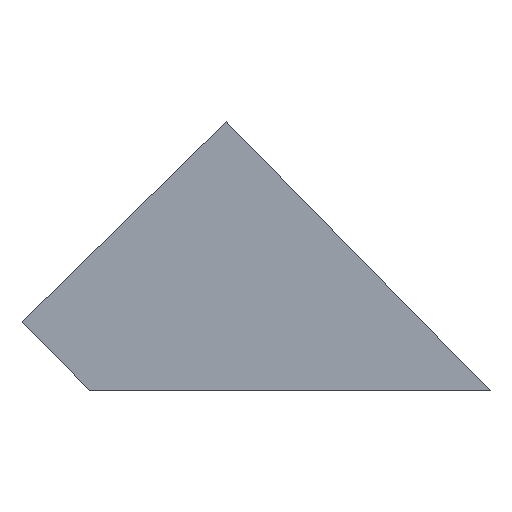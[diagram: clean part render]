
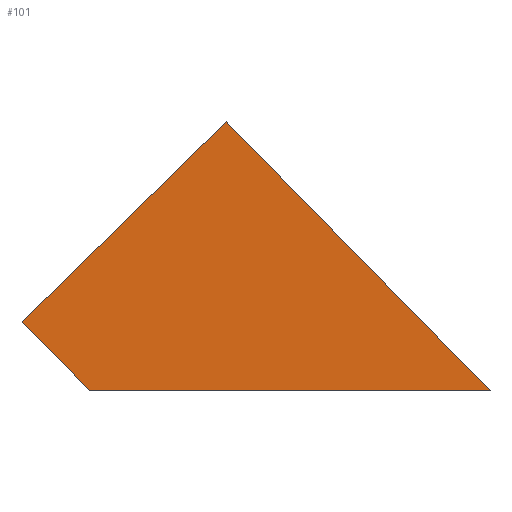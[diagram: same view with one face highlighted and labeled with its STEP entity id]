
A CAD part, left-side view. The second image highlights one B-rep face of the part: STEP entity #101.
In plain terms, the highlighted planar face has unit normal (-1, 0, 0).
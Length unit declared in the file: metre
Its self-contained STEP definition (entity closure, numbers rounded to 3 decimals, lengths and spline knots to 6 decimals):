
#24=ORIENTED_EDGE('',*,*,#37,.F.);
#25=ORIENTED_EDGE('',*,*,#45,.T.);
#26=ORIENTED_EDGE('',*,*,#46,.F.);
#27=ORIENTED_EDGE('',*,*,#41,.F.);
#37=EDGE_CURVE('',#48,#50,#57,.T.);
#41=EDGE_CURVE('',#50,#53,#61,.T.);
#45=EDGE_CURVE('',#48,#55,#65,.T.);
#46=EDGE_CURVE('',#53,#55,#66,.T.);
#48=VERTEX_POINT('',#152);
#50=VERTEX_POINT('',#155);
#53=VERTEX_POINT('',#163);
#55=VERTEX_POINT('',#171);
#57=LINE('',#154,#69);
#61=LINE('',#162,#73);
#65=LINE('',#170,#77);
#66=LINE('',#172,#78);
#69=VECTOR('',#128,1.);
#73=VECTOR('',#134,1.);
#77=VECTOR('',#142,1.);
#78=VECTOR('',#143,1.);
#83=EDGE_LOOP('',(#24,#25,#26,#27));
#89=FACE_BOUND('',#83,.T.);
#95=PLANE('',#120);
#101=ADVANCED_FACE('',(#89),#95,.T.);
#120=AXIS2_PLACEMENT_3D('',#169,#140,#141);
#128=DIRECTION('',(0.,1.,0.));
#134=DIRECTION('',(0.,0.7,0.714));
#140=DIRECTION('',(-1.,0.,0.));
#141=DIRECTION('',(0.,-1.,0.));
#142=DIRECTION('',(0.,0.7,0.714));
#143=DIRECTION('',(0.,-0.714,0.7));
#152=CARTESIAN_POINT('',(-0.0325,-0.027049,0.057068));
#154=CARTESIAN_POINT('',(-0.0325,-0.0423,0.057068));
#155=CARTESIAN_POINT('',(-0.0325,-0.012146,0.057068));
#162=CARTESIAN_POINT('',(-0.0325,-0.019454,0.049616));
#163=CARTESIAN_POINT('',(-0.0325,-0.009625,0.059638));
#169=CARTESIAN_POINT('',(-0.0325,-0.0423,0.072023));
#170=CARTESIAN_POINT('',(-0.0325,-0.02705,0.057067));
#171=CARTESIAN_POINT('',(-0.0325,-0.017221,0.067088));
#172=CARTESIAN_POINT('',(-0.0325,-0.032471,0.082045));
